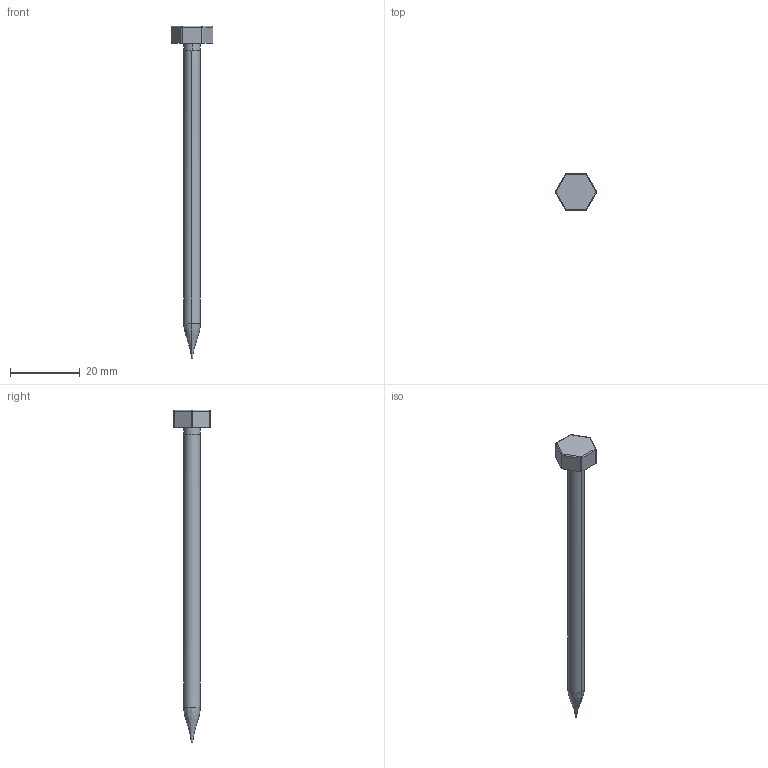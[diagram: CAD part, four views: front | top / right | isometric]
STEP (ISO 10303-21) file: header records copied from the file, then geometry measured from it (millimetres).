
FILE_DESCRIPTION(/* description */ (''),/* implementation_level */ '2;1');
FILE_NAME(/* name */ 'Apfelspieß',/* time_stamp */ '2026-05-06T09:51:40+02:00',/* author */ (''),/* organization */ (''),/* preprocessor_version */ 'ST-DEVELOPER v19.2',/* originating_system */ 'Rhino 8.30',/* authorisation */ '');
FILE_SCHEMA (('CONFIG_CONTROL_DESIGN'));
Length unit declared in the file: millimetre
Products named in the file (1): Document
Bounding box: 11.91 x 10.39 x 95 mm (x, y, z)
Volume: 1988 mm3; surface area: 1635.5 mm2
Topology: 1 solids, 1 shells, 33 faces, 68 edges, 38 vertices
Faces by surface type: cylinder 16, plane 9, bspline 8
Entity records: 1035 total; most frequent: CARTESIAN_POINT 347, ORIENTED_EDGE 136, DIRECTION 89, EDGE_CURVE 68, AXIS2_PLACEMENT_3D 57, VERTEX_POINT 38, EDGE_LOOP 34, ADVANCED_FACE 33
